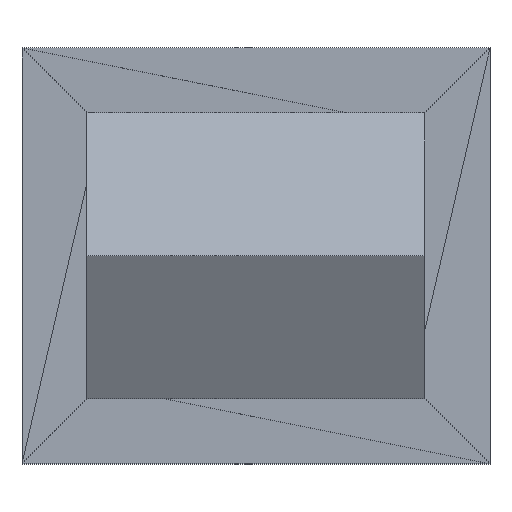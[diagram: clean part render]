
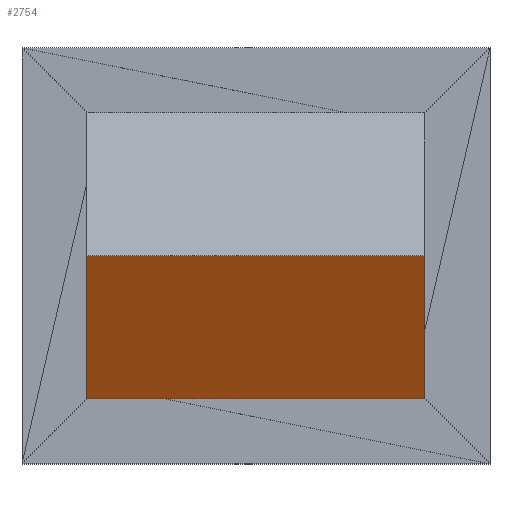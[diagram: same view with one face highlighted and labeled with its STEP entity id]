
A CAD part, top view. The second image highlights one B-rep face of the part: STEP entity #2754.
In plain terms, the highlighted free-form (B-spline) face has degree [1, 1] with [2, 2] control points.
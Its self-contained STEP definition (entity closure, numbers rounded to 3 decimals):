
#2754=ADVANCED_FACE('',(#8502),#77002,.T.);
#8502=FACE_OUTER_BOUND('',#14250,.T.);
#14250=EDGE_LOOP('',(#20159,#20160,#20161,#20162));
#20159=ORIENTED_EDGE('',*,*,#51194,.T.);
#20160=ORIENTED_EDGE('',*,*,#51192,.F.);
#20161=ORIENTED_EDGE('',*,*,#51190,.F.);
#20162=ORIENTED_EDGE('',*,*,#51188,.F.);
#51188=EDGE_CURVE('',#66709,#66710,#82750,.T.);
#51190=EDGE_CURVE('',#66710,#66711,#82752,.T.);
#51192=EDGE_CURVE('',#66711,#66712,#82754,.T.);
#51194=EDGE_CURVE('',#66709,#66712,#82756,.T.);
#66709=VERTEX_POINT('',#98342);
#66710=VERTEX_POINT('',#98343);
#66711=VERTEX_POINT('',#98344);
#66712=VERTEX_POINT('',#98345);
#77002=B_SPLINE_SURFACE_WITH_KNOTS('',1,1,((#98334,#98335),(#98336,#98337)),
.UNSPECIFIED.,.F.,.F.,.F.,(2,2),(2,2),(0.,13.),(-6.351,0.),.UNSPECIFIED.);
#82750=B_SPLINE_CURVE_WITH_KNOTS('',1,(#98300,#98301),.UNSPECIFIED.,.F.,
.F.,(2,2),(0.,13.),.UNSPECIFIED.);
#82752=B_SPLINE_CURVE_WITH_KNOTS('',1,(#98304,#98305),.UNSPECIFIED.,.F.,
.F.,(2,2),(0.,6.351),.UNSPECIFIED.);
#82754=B_SPLINE_CURVE_WITH_KNOTS('',1,(#98308,#98309),.UNSPECIFIED.,.F.,
.F.,(2,2),(0.,13.),.UNSPECIFIED.);
#82756=B_SPLINE_CURVE_WITH_KNOTS('',1,(#98312,#98313),.UNSPECIFIED.,.F.,
.F.,(2,2),(0.,6.351),.UNSPECIFIED.);
#98300=CARTESIAN_POINT('',(-0.5,5.,6.318));
#98301=CARTESIAN_POINT('',(12.5,5.,6.318));
#98304=CARTESIAN_POINT('',(12.5,5.,6.318));
#98305=CARTESIAN_POINT('',(12.5,-0.5,3.142));
#98308=CARTESIAN_POINT('',(12.5,-0.5,3.142));
#98309=CARTESIAN_POINT('',(-0.5,-0.5,3.142));
#98312=CARTESIAN_POINT('',(-0.5,5.,6.318));
#98313=CARTESIAN_POINT('',(-0.5,-0.5,3.142));
#98334=CARTESIAN_POINT('',(-0.5,-0.5,3.142));
#98335=CARTESIAN_POINT('',(-0.5,5.,6.318));
#98336=CARTESIAN_POINT('',(12.5,-0.5,3.142));
#98337=CARTESIAN_POINT('',(12.5,5.,6.318));
#98342=CARTESIAN_POINT('',(-0.5,5.,6.318));
#98343=CARTESIAN_POINT('',(12.5,5.,6.318));
#98344=CARTESIAN_POINT('',(12.5,-0.5,3.142));
#98345=CARTESIAN_POINT('',(-0.5,-0.5,3.142));
